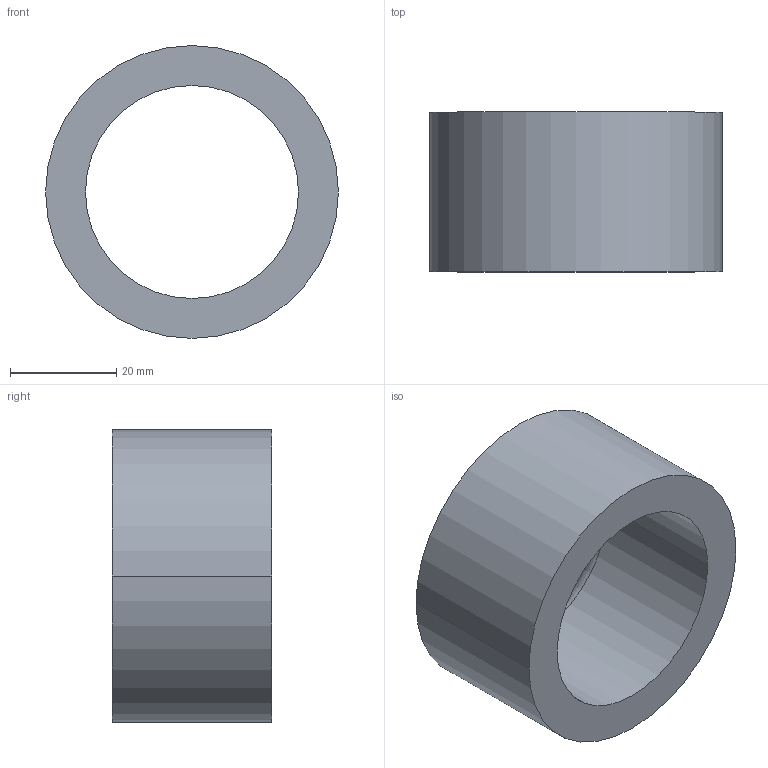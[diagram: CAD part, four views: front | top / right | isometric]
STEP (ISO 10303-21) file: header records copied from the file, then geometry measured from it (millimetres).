
FILE_DESCRIPTION (( 'STEP AP203' ), '1' );
FILE_NAME ('30800.WPP55L40.0.step', '2019-01-23T22:55:32', ( '' ), ( '' ), 'SwSTEP 2.0', 'SolidWorks 2017', '' );
FILE_SCHEMA (( 'CONFIG_CONTROL_DESIGN' ));
Length unit declared in the file: millimetre
Products named in the file (1): 30800.WPP55L40.0
Bounding box: 55 x 30 x 55 mm (x, y, z)
Volume: 33232.5 mm3; surface area: 11008.6 mm2
Topology: 1 solids, 1 shells, 8 faces, 16 edges, 10 vertices
Faces by surface type: cylinder 4, torus 2, plane 2
Entity records: 297 total; most frequent: DIRECTION 46, CARTESIAN_POINT 35, ORIENTED_EDGE 32, AXIS2_PLACEMENT_3D 21, EDGE_CURVE 16, CIRCLE 12, VERTEX_POINT 10, EDGE_LOOP 10
